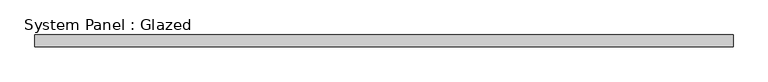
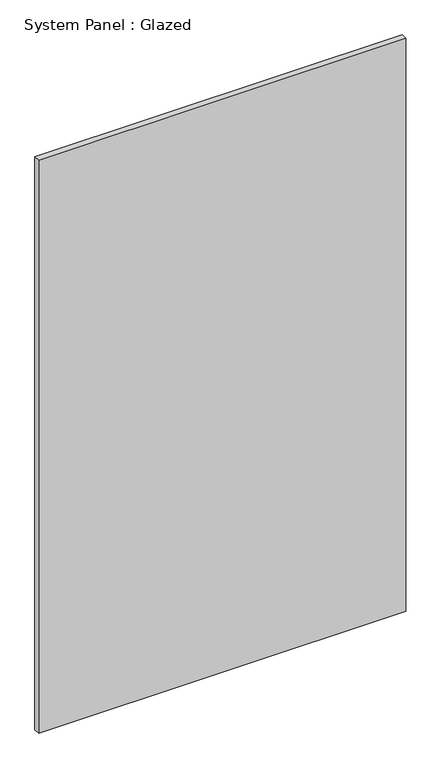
"""IFC4 building model written with IfcOpenShell, lengths in millimetres: plate geometry, System Panel : Glazed."""

from ifc_helpers import new_model, si_unit, origin, origin_with_axes, place, context, project, spatial, polyline, outline, extrude, source, transform, mapped, element, save


def system_panel_glazed_6b07ec01(model_context):
    return source(origin(), model_context, "Body", "SweptSolid", [
        extrude(outline(polyline([(747.9681587, -12.7), (-747.9681587, -12.7), (-747.9681587, 12.7), (747.9681587, 12.7), (747.9681587, -12.7)])), origin_with_axes(), (0.0, 0.0, 1.0), 2466.5116285),
    ])


if __name__ == "__main__":
    model = new_model("IFC4")
    model_context = context("Model", 3, world=origin())
    ifc_project = project(units=[si_unit("LENGTHUNIT", "METRE", prefix="MILLI")], contexts=[model_context])
    site = spatial("IfcSite", under=ifc_project)
    building = spatial("IfcBuilding", under=site)
    placement = place(None, origin())
    system_panel_glazed_shape = system_panel_glazed_6b07ec01(model_context)
    element("IfcPlate", 1, ObjectType="System Panel : Glazed", at=placement, inside=building, context=model_context, shape_type="MappedRepresentation", body=[
        mapped(system_panel_glazed_shape, transform((0.0, 0.0, 0.0), x_axis=(1.0, 0.0, 0.0), y_axis=(0.0, 1.0, 0.0), z_axis=(0.0, 0.0, 1.0))),
    ])
    save(model, "model.ifc")
